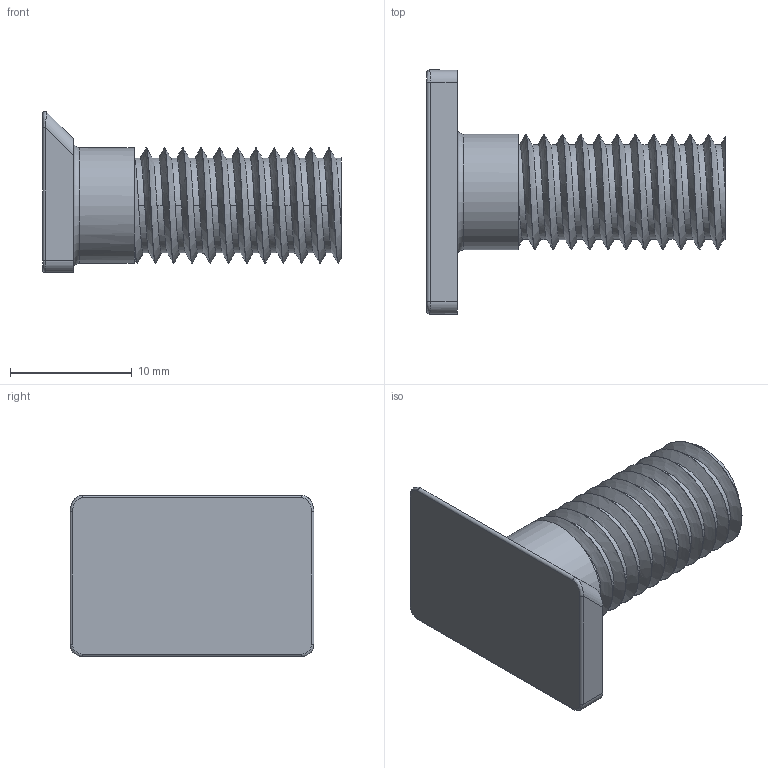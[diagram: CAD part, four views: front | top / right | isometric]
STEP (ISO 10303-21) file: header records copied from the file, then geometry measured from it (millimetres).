
FILE_DESCRIPTION(/* description */ (''),/* implementation_level */ '2;1');
FILE_NAME(/* name */ 'SFE - Spindle.step',/* time_stamp */ '2022-10-31T09:54:36+01:00',/* author */ (''),/* organization */ (''),/* preprocessor_version */ 'ST-DEVELOPER v19.2',/* originating_system */ 'Autodesk Translation Framework v11.17.0.187',/* authorisation */ '');
FILE_SCHEMA (('AUTOMOTIVE_DESIGN { 1 0 10303 214 3 1 1 }'));
Length unit declared in the file: millimetre
Products named in the file (1): SFE - Spindle
Bounding box: 24.5 x 20 x 13.22 mm (x, y, z)
Volume: 1904.5 mm3; surface area: 1545.4 mm2
Topology: 1 solids, 1 shells, 48 faces, 127 edges, 82 vertices
Faces by surface type: cylinder 33, plane 8, bspline 4, torus 3
Full cylindrical faces by diameter (mm): 7.791 x10, 9.5 x10
Entity records: 4014 total; most frequent: CARTESIAN_POINT 2880, ORIENTED_EDGE 254, DIRECTION 194, EDGE_CURVE 127, VERTEX_POINT 82, AXIS2_PLACEMENT_3D 75, B_SPLINE_CURVE_WITH_KNOTS 53, EDGE_LOOP 49
